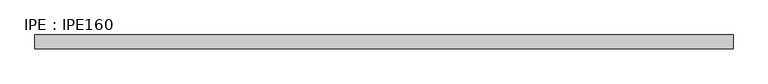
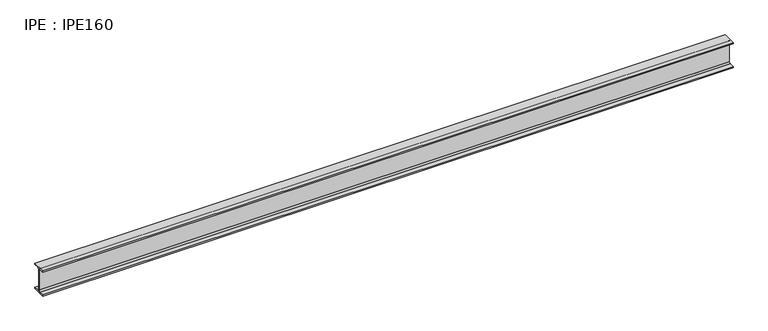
"""IFC4 building model written with IfcOpenShell, lengths in millimetres: beam geometry, IPE : IPE160."""

from ifc_helpers import new_model, si_unit, point, frame, frame_2d, origin, place, context, project, spatial, polyline, circle_curve, trimmed, segment, composite_curve, outline, extrude, source, transform, mapped, element, save


def ipe_ipe160_73ed3a14(model_context):
    return source(origin(), model_context, "Body", "SweptSolid", [
        extrude(outline(composite_curve([segment(polyline([(41.0, -72.6), (41.0, -80.0), (-41.0, -80.0), (-41.0, -72.6), (-11.5, -72.6)]), True, "CONTINUOUS"), segment(trimmed(circle_curve(frame_2d((-11.5, -63.6)), 9.0), [point((-11.5, -72.6))], [point((-2.5, -63.6))], True, "CARTESIAN"), True, "CONTINUOUS"), segment(polyline([(-2.5, -63.6), (-2.5, 63.6)]), True, "CONTINUOUS"), segment(trimmed(circle_curve(frame_2d((-11.5, 63.6)), 9.0), [point((-2.5, 63.6))], [point((-11.5, 72.6))], True, "CARTESIAN"), True, "CONTINUOUS"), segment(polyline([(-11.5, 72.6), (-41.0, 72.6), (-41.0, 80.0), (41.0, 80.0), (41.0, 72.6), (11.5, 72.6)]), True, "CONTINUOUS"), segment(trimmed(circle_curve(frame_2d((11.5, 63.6)), 9.0), [point((11.5, 72.6))], [point((2.5, 63.6))], True, "CARTESIAN"), True, "CONTINUOUS"), segment(polyline([(2.5, 63.6), (2.5, -63.6)]), True, "CONTINUOUS"), segment(trimmed(circle_curve(frame_2d((11.5, -63.6)), 9.0), [point((2.5, -63.6))], [point((11.5, -72.6))], True, "CARTESIAN"), True, "CONTINUOUS"), segment(polyline([(11.5, -72.6), (41.0, -72.6)]), True, "CONTINUOUS")], self_intersect=False)), frame((-2030.1, 0.0, 0.0), z_axis=(1.0, 0.0, 0.0), x_axis=(0.0, 1.0, 0.0)), (0.0, 0.0, 1.0), 4145.5),
    ])


if __name__ == "__main__":
    model = new_model("IFC4")
    model_context = context("Model", 3, world=origin())
    ifc_project = project(units=[si_unit("LENGTHUNIT", "METRE", prefix="MILLI")], contexts=[model_context])
    site = spatial("IfcSite", under=ifc_project)
    building = spatial("IfcBuilding", under=site)
    placement = place(None, origin())
    ipe_ipe160_shape = ipe_ipe160_73ed3a14(model_context)
    element("IfcBeam", 1, ObjectType="IPE : IPE160", at=placement, inside=building, context=model_context, shape_type="MappedRepresentation", body=[
        mapped(ipe_ipe160_shape, transform((0.0, 0.0, 0.0), x_axis=(1.0, 0.0, 0.0), y_axis=(0.0, 1.0, 0.0), z_axis=(0.0, 0.0, 1.0))),
    ])
    save(model, "model.ifc")
